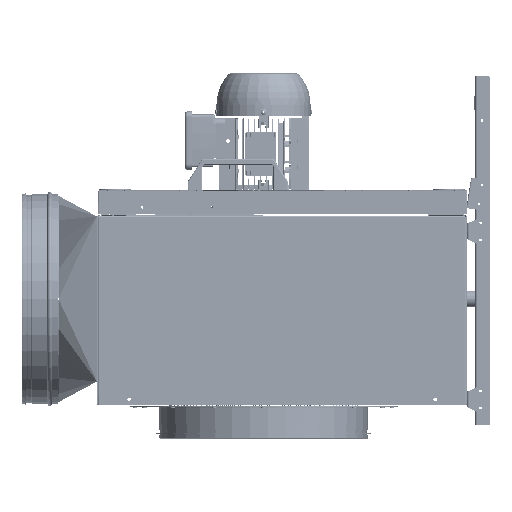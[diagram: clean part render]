
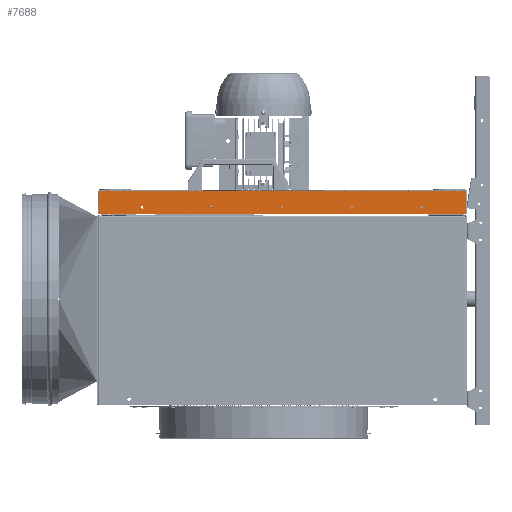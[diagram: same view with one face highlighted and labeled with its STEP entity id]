
A CAD part, left-side view. The second image highlights one B-rep face of the part: STEP entity #7688.
In plain terms, the highlighted planar face has unit normal (-1, 0, 0).
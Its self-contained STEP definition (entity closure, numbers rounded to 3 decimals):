
#1148 = DIRECTION ( 'NONE',  ( 1., 0., 0. ) ) ;
#1197 = EDGE_LOOP ( 'NONE', ( #174304, #30426 ) ) ;
#3258 = DIRECTION ( 'NONE',  ( 1., 0., 0. ) ) ;
#4258 = VERTEX_POINT ( 'NONE', #16944 ) ;
#4343 = DIRECTION ( 'NONE',  ( 1., 0., 0. ) ) ;
#5904 = CIRCLE ( 'NONE', #23110, 2.1 ) ;
#6227 = CIRCLE ( 'NONE', #65207, 2.1 ) ;
#6845 = VERTEX_POINT ( 'NONE', #156283 ) ;
#6872 = VERTEX_POINT ( 'NONE', #48235 ) ;
#7688 = ADVANCED_FACE ( 'NONE', ( #126805, #22664, #18395, #158663, #171457, #54625 ), #43928, .F. ) ;
#10534 = CARTESIAN_POINT ( 'NONE',  ( -350.2, 118.27, 337.5 ) ) ;
#10658 = EDGE_LOOP ( 'NONE', ( #115519, #146552 ) ) ;
#10914 = AXIS2_PLACEMENT_3D ( 'NONE', #37546, #132509, #51238 ) ;
#11455 = EDGE_CURVE ( 'NONE', #6872, #6845, #174579, .T. ) ;
#15192 = AXIS2_PLACEMENT_3D ( 'NONE', #119255, #37886, #132851 ) ;
#15249 = AXIS2_PLACEMENT_3D ( 'NONE', #77136, #172133, #90739 ) ;
#16944 = CARTESIAN_POINT ( 'NONE',  ( -350.2, 118.27, 333.3 ) ) ;
#17973 = CARTESIAN_POINT ( 'NONE',  ( -350.2, -310.07, 324.9 ) ) ;
#18395 = FACE_OUTER_BOUND ( 'NONE', #127267, .T. ) ;
#18635 = CARTESIAN_POINT ( 'NONE',  ( -350.2, -310.07, 324.9 ) ) ;
#19817 = CIRCLE ( 'NONE', #61143, 2.1 ) ;
#20102 = VERTEX_POINT ( 'NONE', #10534 ) ;
#21641 = AXIS2_PLACEMENT_3D ( 'NONE', #117819, #36451, #131402 ) ;
#21864 = DIRECTION ( 'NONE',  ( 1., 0., 0. ) ) ;
#22664 = FACE_BOUND ( 'NONE', #1197, .T. ) ;
#23110 = AXIS2_PLACEMENT_3D ( 'NONE', #36194, #131152, #49878 ) ;
#25729 = EDGE_CURVE ( 'NONE', #93430, #115379, #19817, .T. ) ;
#30426 = ORIENTED_EDGE ( 'NONE', *, *, #11455, .T. ) ;
#30440 = CIRCLE ( 'NONE', #163884, 2.1 ) ;
#32065 = ORIENTED_EDGE ( 'NONE', *, *, #78421, .F. ) ;
#32334 = CIRCLE ( 'NONE', #108211, 2.1 ) ;
#35088 = CARTESIAN_POINT ( 'NONE',  ( -350.2, 0.27, 337.5 ) ) ;
#36194 = CARTESIAN_POINT ( 'NONE',  ( -350.2, 0.27, 335.4 ) ) ;
#36451 = DIRECTION ( 'NONE',  ( 1., 0., 0. ) ) ;
#37546 = CARTESIAN_POINT ( 'NONE',  ( -350.2, 0.27, 335.4 ) ) ;
#37886 = DIRECTION ( 'NONE',  ( 1., 0., 0. ) ) ;
#43928 = PLANE ( 'NONE',  #126446 ) ;
#45834 = VERTEX_POINT ( 'NONE', #162209 ) ;
#47228 = EDGE_CURVE ( 'NONE', #148501, #135736, #139440, .T. ) ;
#48235 = CARTESIAN_POINT ( 'NONE',  ( -350.2, 236.27, 337.5 ) ) ;
#49878 = DIRECTION ( 'NONE',  ( 0., 0., -1. ) ) ;
#50001 = CARTESIAN_POINT ( 'NONE',  ( -350.2, -311.27, 324.9 ) ) ;
#50927 = VECTOR ( 'NONE', #55171, 1000. ) ;
#51030 = ORIENTED_EDGE ( 'NONE', *, *, #109310, .T. ) ;
#51238 = DIRECTION ( 'NONE',  ( 0., 0., -1. ) ) ;
#54625 = FACE_BOUND ( 'NONE', #169259, .T. ) ;
#55171 = DIRECTION ( 'NONE',  ( 0., 0., -1. ) ) ;
#55876 = ORIENTED_EDGE ( 'NONE', *, *, #139018, .T. ) ;
#56627 = ORIENTED_EDGE ( 'NONE', *, *, #25729, .T. ) ;
#57409 = CARTESIAN_POINT ( 'NONE',  ( -350.2, -235.73, 333.3 ) ) ;
#57631 = DIRECTION ( 'NONE',  ( 1., 0., 0. ) ) ;
#58219 = VERTEX_POINT ( 'NONE', #122870 ) ;
#59002 = DIRECTION ( 'NONE',  ( 0., 0., 1. ) ) ;
#60230 = ORIENTED_EDGE ( 'NONE', *, *, #149059, .T. ) ;
#61143 = AXIS2_PLACEMENT_3D ( 'NONE', #175686, #3258, #98231 ) ;
#62663 = CARTESIAN_POINT ( 'NONE',  ( -350.2, 118.27, 335.4 ) ) ;
#64271 = EDGE_CURVE ( 'NONE', #6845, #6872, #30440, .T. ) ;
#65125 = EDGE_CURVE ( 'NONE', #20102, #4258, #32334, .T. ) ;
#65207 = AXIS2_PLACEMENT_3D ( 'NONE', #62663, #157660, #76304 ) ;
#65236 = LINE ( 'NONE', #50001, #97013 ) ;
#67987 = EDGE_CURVE ( 'NONE', #135736, #148501, #5904, .T. ) ;
#69793 = VERTEX_POINT ( 'NONE', #71342 ) ;
#71342 = CARTESIAN_POINT ( 'NONE',  ( -350.2, 309.27, 324.9 ) ) ;
#71557 = CARTESIAN_POINT ( 'NONE',  ( -350.2, 310.47, 363.4 ) ) ;
#73108 = ORIENTED_EDGE ( 'NONE', *, *, #170777, .T. ) ;
#74504 = VERTEX_POINT ( 'NONE', #57409 ) ;
#76304 = DIRECTION ( 'NONE',  ( 0., 0., -1. ) ) ;
#77136 = CARTESIAN_POINT ( 'NONE',  ( -350.2, -235.73, 335.4 ) ) ;
#78421 = EDGE_CURVE ( 'NONE', #151170, #58219, #164650, .T. ) ;
#78488 = VERTEX_POINT ( 'NONE', #18635 ) ;
#82503 = CARTESIAN_POINT ( 'NONE',  ( -350.2, 118.27, 335.4 ) ) ;
#85159 = DIRECTION ( 'NONE',  ( 0., -1., 0. ) ) ;
#85692 = CARTESIAN_POINT ( 'NONE',  ( -350.2, 236.27, 335.4 ) ) ;
#86923 = LINE ( 'NONE', #95475, #50927 ) ;
#88069 = VECTOR ( 'NONE', #85159, 1000. ) ;
#90739 = DIRECTION ( 'NONE',  ( 0., 0., -1. ) ) ;
#93430 = VERTEX_POINT ( 'NONE', #140277 ) ;
#94942 = AXIS2_PLACEMENT_3D ( 'NONE', #103234, #21864, #116939 ) ;
#95475 = CARTESIAN_POINT ( 'NONE',  ( -350.2, 309.27, 363.4 ) ) ;
#96161 = DIRECTION ( 'NONE',  ( 0., 0., -1. ) ) ;
#97013 = VECTOR ( 'NONE', #144989, 1000. ) ;
#97607 = EDGE_CURVE ( 'NONE', #78488, #58219, #141869, .T. ) ;
#97905 = CARTESIAN_POINT ( 'NONE',  ( -350.2, 310.47, 364.6 ) ) ;
#98231 = DIRECTION ( 'NONE',  ( 0., 0., -1. ) ) ;
#98468 = EDGE_LOOP ( 'NONE', ( #151462, #106567 ) ) ;
#99332 = DIRECTION ( 'NONE',  ( 0., 0., -1. ) ) ;
#103234 = CARTESIAN_POINT ( 'NONE',  ( -350.2, 236.27, 335.4 ) ) ;
#105754 = VECTOR ( 'NONE', #59002, 1000. ) ;
#106567 = ORIENTED_EDGE ( 'NONE', *, *, #67987, .T. ) ;
#108211 = AXIS2_PLACEMENT_3D ( 'NONE', #82503, #1148, #96161 ) ;
#109310 = EDGE_CURVE ( 'NONE', #151170, #69793, #86923, .T. ) ;
#115379 = VERTEX_POINT ( 'NONE', #166196 ) ;
#115519 = ORIENTED_EDGE ( 'NONE', *, *, #129104, .T. ) ;
#116939 = DIRECTION ( 'NONE',  ( 0., 0., -1. ) ) ;
#117819 = CARTESIAN_POINT ( 'NONE',  ( -350.2, -235.73, 335.4 ) ) ;
#119255 = CARTESIAN_POINT ( 'NONE',  ( -350.2, -117.73, 335.4 ) ) ;
#122870 = CARTESIAN_POINT ( 'NONE',  ( -350.2, -310.07, 363.4 ) ) ;
#124537 = CIRCLE ( 'NONE', #15192, 2.1 ) ;
#126446 = AXIS2_PLACEMENT_3D ( 'NONE', #97905, #57631, #152568 ) ;
#126805 = FACE_BOUND ( 'NONE', #10658, .T. ) ;
#127267 = EDGE_LOOP ( 'NONE', ( #134069, #32065, #51030, #60230 ) ) ;
#129104 = EDGE_CURVE ( 'NONE', #4258, #20102, #6227, .T. ) ;
#131152 = DIRECTION ( 'NONE',  ( 1., 0., 0. ) ) ;
#131402 = DIRECTION ( 'NONE',  ( 0., 0., -1. ) ) ;
#132509 = DIRECTION ( 'NONE',  ( 1., 0., 0. ) ) ;
#132846 = EDGE_LOOP ( 'NONE', ( #170712, #56627 ) ) ;
#132851 = DIRECTION ( 'NONE',  ( 0., 0., -1. ) ) ;
#134069 = ORIENTED_EDGE ( 'NONE', *, *, #97607, .T. ) ;
#135736 = VERTEX_POINT ( 'NONE', #35088 ) ;
#139018 = EDGE_CURVE ( 'NONE', #45834, #74504, #155557, .T. ) ;
#139440 = CIRCLE ( 'NONE', #10914, 2.1 ) ;
#140277 = CARTESIAN_POINT ( 'NONE',  ( -350.2, -117.73, 337.5 ) ) ;
#141869 = LINE ( 'NONE', #17973, #105754 ) ;
#144733 = CIRCLE ( 'NONE', #15249, 2.1 ) ;
#144989 = DIRECTION ( 'NONE',  ( 0., -1., 0. ) ) ;
#146552 = ORIENTED_EDGE ( 'NONE', *, *, #65125, .T. ) ;
#148491 = CARTESIAN_POINT ( 'NONE',  ( -350.2, 309.27, 363.4 ) ) ;
#148501 = VERTEX_POINT ( 'NONE', #155873 ) ;
#149059 = EDGE_CURVE ( 'NONE', #69793, #78488, #65236, .T. ) ;
#149585 = EDGE_CURVE ( 'NONE', #115379, #93430, #124537, .T. ) ;
#151170 = VERTEX_POINT ( 'NONE', #148491 ) ;
#151462 = ORIENTED_EDGE ( 'NONE', *, *, #47228, .T. ) ;
#152568 = DIRECTION ( 'NONE',  ( 0., 0., -1. ) ) ;
#155557 = CIRCLE ( 'NONE', #21641, 2.1 ) ;
#155873 = CARTESIAN_POINT ( 'NONE',  ( -350.2, 0.27, 333.3 ) ) ;
#156283 = CARTESIAN_POINT ( 'NONE',  ( -350.2, 236.27, 333.3 ) ) ;
#157660 = DIRECTION ( 'NONE',  ( 1., 0., 0. ) ) ;
#158663 = FACE_BOUND ( 'NONE', #98468, .T. ) ;
#162209 = CARTESIAN_POINT ( 'NONE',  ( -350.2, -235.73, 337.5 ) ) ;
#163884 = AXIS2_PLACEMENT_3D ( 'NONE', #85692, #4343, #99332 ) ;
#164650 = LINE ( 'NONE', #71557, #88069 ) ;
#166196 = CARTESIAN_POINT ( 'NONE',  ( -350.2, -117.73, 333.3 ) ) ;
#169259 = EDGE_LOOP ( 'NONE', ( #73108, #55876 ) ) ;
#170712 = ORIENTED_EDGE ( 'NONE', *, *, #149585, .T. ) ;
#170777 = EDGE_CURVE ( 'NONE', #74504, #45834, #144733, .T. ) ;
#171457 = FACE_BOUND ( 'NONE', #132846, .T. ) ;
#172133 = DIRECTION ( 'NONE',  ( 1., 0., 0. ) ) ;
#174304 = ORIENTED_EDGE ( 'NONE', *, *, #64271, .T. ) ;
#174579 = CIRCLE ( 'NONE', #94942, 2.1 ) ;
#175686 = CARTESIAN_POINT ( 'NONE',  ( -350.2, -117.73, 335.4 ) ) ;
